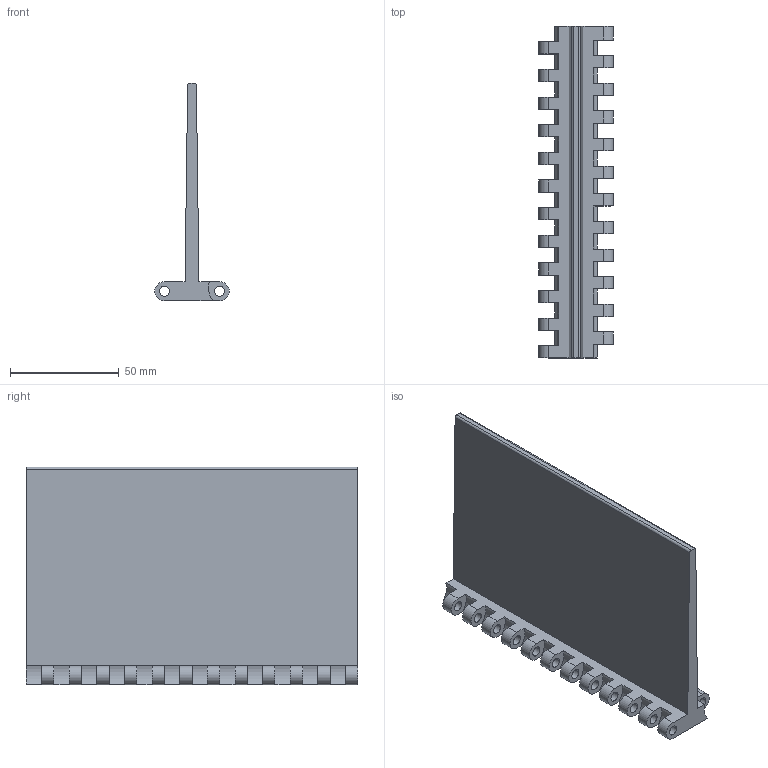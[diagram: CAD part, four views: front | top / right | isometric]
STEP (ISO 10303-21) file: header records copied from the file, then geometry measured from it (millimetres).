
FILE_DESCRIPTION(('CATIA V5 STEP Exchange'),'2;1');
FILE_NAME('C:\Users\ALI OZGUN\Desktop\alhan\TESLIMEDILEN3\939B01P01-100.stp','2017-09-21T11:52:20+00:00',('none'),('none'),'CATIA Version 5 Release 21 GA (IN-10)','CATIA V5 STEP AP203','none');
FILE_SCHEMA(('CONFIG_CONTROL_DESIGN'));
Length unit declared in the file: millimetre
Products named in the file (1): 939B01P01-100
Bounding box: 34.2 x 152.4 x 100 mm (x, y, z)
Volume: 91191.9 mm3; surface area: 46162.2 mm2
Topology: 1 solids, 1 shells, 207 faces, 582 edges, 388 vertices
Faces by surface type: cylinder 108, plane 99
Entity records: 6119 total; most frequent: ORIENTED_EDGE 1164, CARTESIAN_POINT 1067, DIRECTION 774, EDGE_CURVE 582, VERTEX_POINT 388, VECTOR 366, LINE 366, AXIS2_PLACEMENT_3D 313
